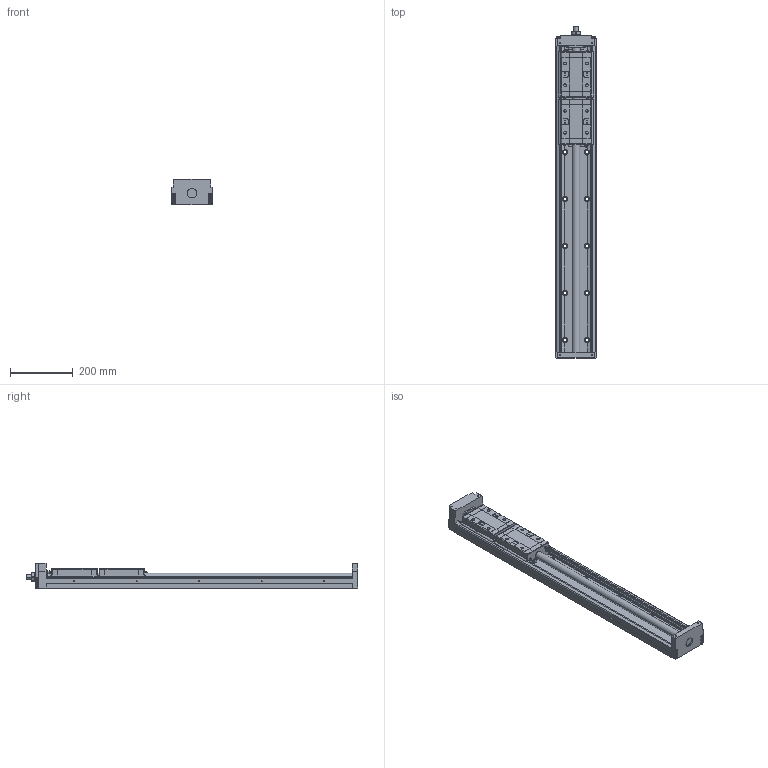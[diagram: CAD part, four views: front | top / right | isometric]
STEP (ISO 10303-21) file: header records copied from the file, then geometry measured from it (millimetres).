
FILE_DESCRIPTION(('no description'),'unknown implementation level');
FILE_NAME('KK13025P980A2H0000_FILE_70.stp',' ',('HIWIN GmbH'),('CADClick - KiM GmbH - www.kimweb.de'),'unknown preprocess','ACIS','unknown authorization');
FILE_SCHEMA(('automotive_design'));
Length unit declared in the file: millimetre
Products named in the file (3): KK13025P980A2H0000_FILE_1; KK130_FILE; KK13025P980A2H0000_FILE
Bounding box: 130 x 1062 x 83 mm (x, y, z)
Volume: 4705274.4 mm3; surface area: 661643.6 mm2
Topology: 3 solids, 19 shells, 1019 faces, 2500 edges, 1610 vertices
Faces by surface type: plane 649, cylinder 318, torus 44, sphere 4, cone 4
Entity records: 58954 total; most frequent: DIRECTION 5356, CARTESIAN_POINT 5344, STYLED_ITEM 5128, PRESENTATION_STYLE_ASSIGNMENT 5128, COLOUR_RGB 5128, ORIENTED_EDGE 4992, EDGE_CURVE 2496, CURVE_STYLE 2496
